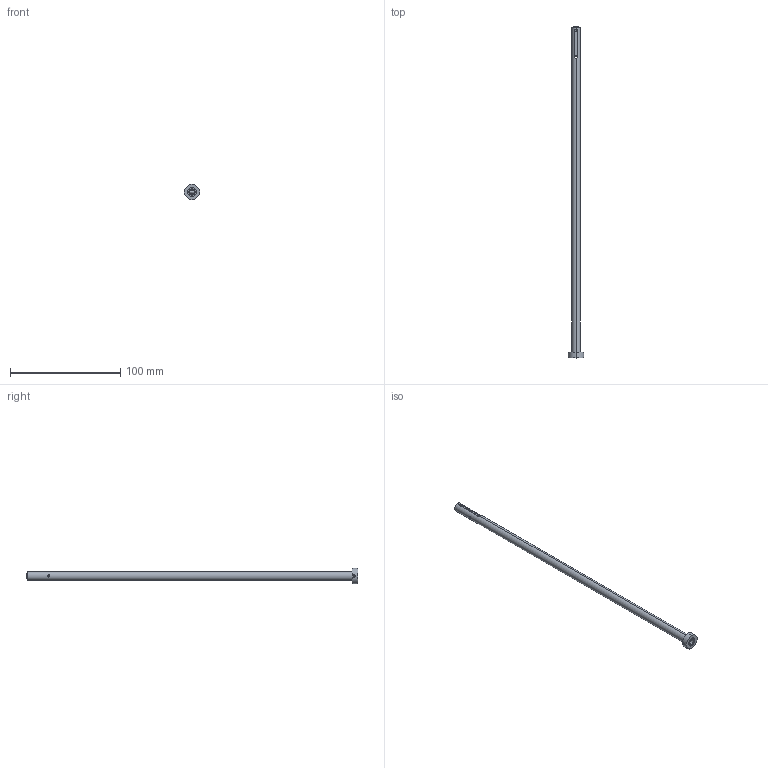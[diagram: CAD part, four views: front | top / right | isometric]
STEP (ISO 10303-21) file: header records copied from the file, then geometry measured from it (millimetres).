
FILE_DESCRIPTION (( 'STEP AP203' ), '1' );
FILE_NAME ('SGDE-807Cx300.STEP', '2017-01-10T15:44:50', ( 'Balzi' ), ( '' ), 'SwSTEP 2.0', 'SolidWorks 2016', '' );
FILE_SCHEMA (( 'CONFIG_CONTROL_DESIGN' ));
Length unit declared in the file: millimetre
Products named in the file (1): SGDE-807Cx300
Bounding box: 14 x 301.2 x 14 mm (x, y, z)
Volume: 9630.7 mm3; surface area: 13439.7 mm2
Topology: 1 solids, 1 shells, 86 faces, 238 edges, 156 vertices
Faces by surface type: cylinder 48, plane 32, cone 6
Entity records: 3363 total; most frequent: CARTESIAN_POINT 1085, ORIENTED_EDGE 476, DIRECTION 432, EDGE_CURVE 238, AXIS2_PLACEMENT_3D 159, VERTEX_POINT 156, LINE 114, VECTOR 114
